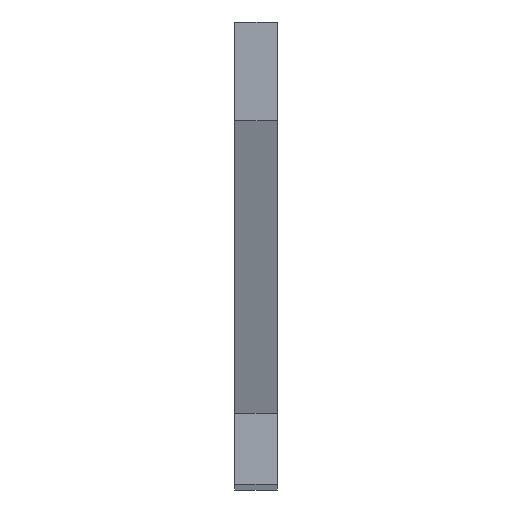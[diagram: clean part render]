
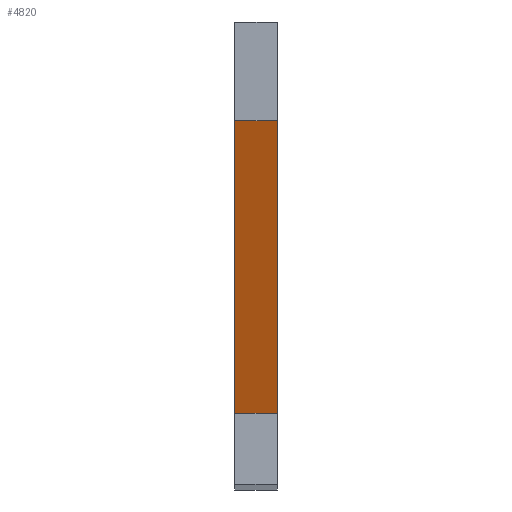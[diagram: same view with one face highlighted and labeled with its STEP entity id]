
A CAD part, left-side view. The second image highlights one B-rep face of the part: STEP entity #4820.
In plain terms, the highlighted planar face has unit normal (-0.028, 0, -1).
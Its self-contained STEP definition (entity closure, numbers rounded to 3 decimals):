
#680=DIRECTION('',(-1.,0.,0.028));
#681=VECTOR('',#680,732.212);
#682=CARTESIAN_POINT('',(1363.468,-19.,34.657));
#683=LINE('',#682,#681);
#1282=DIRECTION('',(-1.,0.,0.028));
#1283=VECTOR('',#1282,732.212);
#1284=CARTESIAN_POINT('',(1363.468,-16.,34.657));
#1285=LINE('',#1284,#1283);
#1818=DIRECTION('',(0.,1.,0.));
#1819=VECTOR('',#1818,3.);
#1820=CARTESIAN_POINT('',(631.55,-19.,55.405));
#1821=LINE('',#1820,#1819);
#1822=DIRECTION('',(0.,1.,0.));
#1823=VECTOR('',#1822,3.);
#1824=CARTESIAN_POINT('',(1363.468,-19.,34.657));
#1825=LINE('',#1824,#1823);
#2051=CARTESIAN_POINT('',(631.55,-19.,55.405));
#2053=VERTEX_POINT('',#2051);
#2055=CARTESIAN_POINT('',(631.55,-16.,55.405));
#2057=VERTEX_POINT('',#2055);
#2304=CARTESIAN_POINT('',(1363.468,-19.,34.657));
#2305=CARTESIAN_POINT('',(1363.468,-16.,34.657));
#2306=VERTEX_POINT('',#2304);
#2307=VERTEX_POINT('',#2305);
#4808=CARTESIAN_POINT('',(1363.468,-19.,34.657));
#4809=DIRECTION('',(-0.028,0.,-1.));
#4810=DIRECTION('',(-1.,0.,0.028));
#4811=AXIS2_PLACEMENT_3D('',#4808,#4809,#4810);
#4812=PLANE('',#4811);
#4813=ORIENTED_EDGE('',*,*,#4800,.F.);
#4814=ORIENTED_EDGE('',*,*,#2369,.F.);
#4816=ORIENTED_EDGE('',*,*,#4815,.T.);
#4817=ORIENTED_EDGE('',*,*,#2729,.T.);
#4818=EDGE_LOOP('',(#4813,#4814,#4816,#4817));
#4819=FACE_OUTER_BOUND('',#4818,.F.);
#4820=ADVANCED_FACE('',(#4819),#4812,.T.);
#2369=EDGE_CURVE('',#2306,#2053,#683,.T.);
#2729=EDGE_CURVE('',#2307,#2057,#1285,.T.);
#4800=EDGE_CURVE('',#2053,#2057,#1821,.T.);
#4815=EDGE_CURVE('',#2306,#2307,#1825,.T.);
